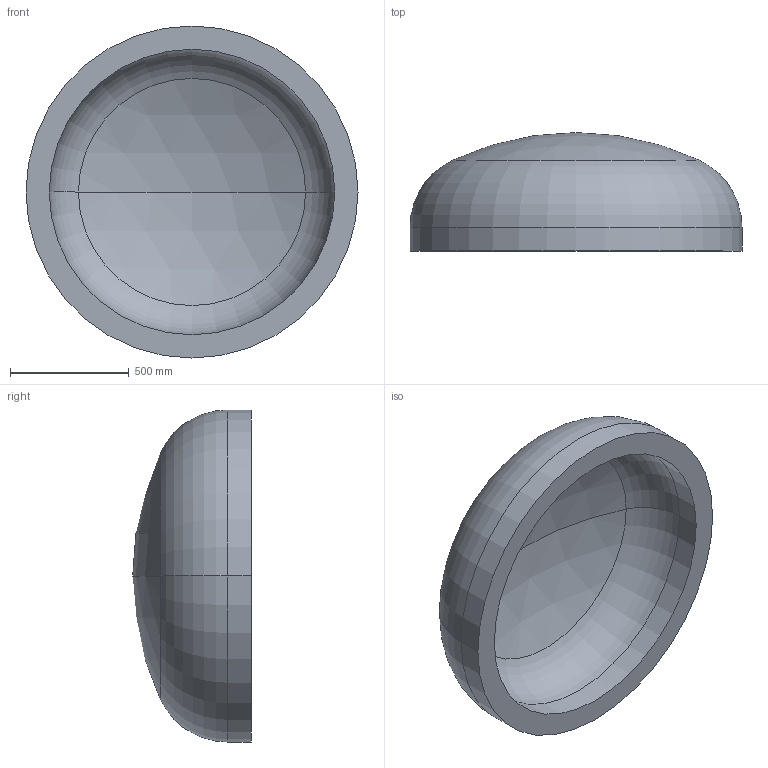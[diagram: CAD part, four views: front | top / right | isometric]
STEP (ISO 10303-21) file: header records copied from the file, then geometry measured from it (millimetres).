
FILE_DESCRIPTION (( 'STEP AP203' ), '1' );
FILE_NAME ('DIN 28013 Korbbogenform_-_Boden DIN 28013 - 1400 x 100 - I - s=98.step', '2016-07-01T10:28:43', ( '' ), ( '' ), 'SwSTEP 2.0', 'SolidWorks 2013', '' );
FILE_SCHEMA (( 'CONFIG_CONTROL_DESIGN' ));
Length unit declared in the file: millimetre
Products named in the file (1): DIN 28013 Korbbogenform_-_Boden DIN 28013 - 1400 x 100 - I - s=98
Bounding box: 1400 x 499.92 x 1400 mm (x, y, z)
Volume: 231210307.1 mm3; surface area: 5139545.9 mm2
Topology: 1 solids, 1 shells, 13 faces, 24 edges, 14 vertices
Faces by surface type: torus 4, cylinder 4, sphere 4, plane 1
Entity records: 407 total; most frequent: DIRECTION 72, CARTESIAN_POINT 52, ORIENTED_EDGE 48, AXIS2_PLACEMENT_3D 34, EDGE_CURVE 24, CIRCLE 20, VERTEX_POINT 14, EDGE_LOOP 14
